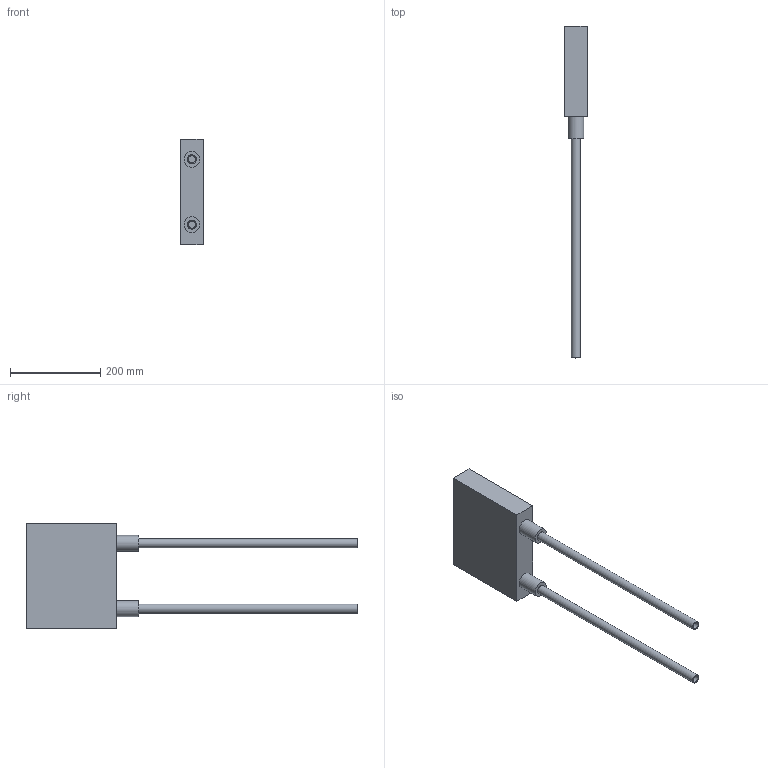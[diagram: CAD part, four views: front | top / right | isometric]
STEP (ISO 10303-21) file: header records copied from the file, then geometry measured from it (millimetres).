
FILE_DESCRIPTION(/* description */ (''),/* implementation_level */ '2;1');
FILE_NAME(/* name */ '\\LG50011\SANHA_Legnica\Engineering\Public\PROJEKTY\SANHA-BOX_Support_BiR\002-Rysunki_Boxów\25-BWDU-M\Zespół1-325BWDUM20.stp',/* time_stamp */ '2018-11-05T14:28:31+01:00',/* author */ ('gomulka'),/* organization */ (''),/* preprocessor_version */ 'ST-DEVELOPER v16.13',/* originating_system */ 'Autodesk Inventor 2018',/* authorisation */ '');
FILE_SCHEMA (('AUTOMOTIVE_DESIGN { 1 0 10303 214 3 1 1 }'));
Length unit declared in the file: millimetre
Products named in the file (3): Zespół1-325BWDUM20; 325BWDUM20; Rura_20x2
Assembly tree (3 placements, depth 2):
  Zespół1-325BWDUM20
    325BWDUM20
    Rura_20x2  x2
Bounding box: 50.5 x 737.08 x 235 mm (x, y, z)
Volume: 2504021.8 mm3; surface area: 273840 mm2
Topology: 3 solids, 3 shells, 106 faces, 252 edges, 168 vertices
Faces by surface type: plane 78, bspline 16, cylinder 12
Full cylindrical faces by diameter (mm): 16 x2, 18.631 x2, 20 x4, 21 x2, 35 x2
Entity records: 3098 total; most frequent: CARTESIAN_POINT 716, ORIENTED_EDGE 472, DIRECTION 408, EDGE_CURVE 236, LINE 184, VECTOR 184, VERTEX_POINT 164, EDGE_LOOP 130
